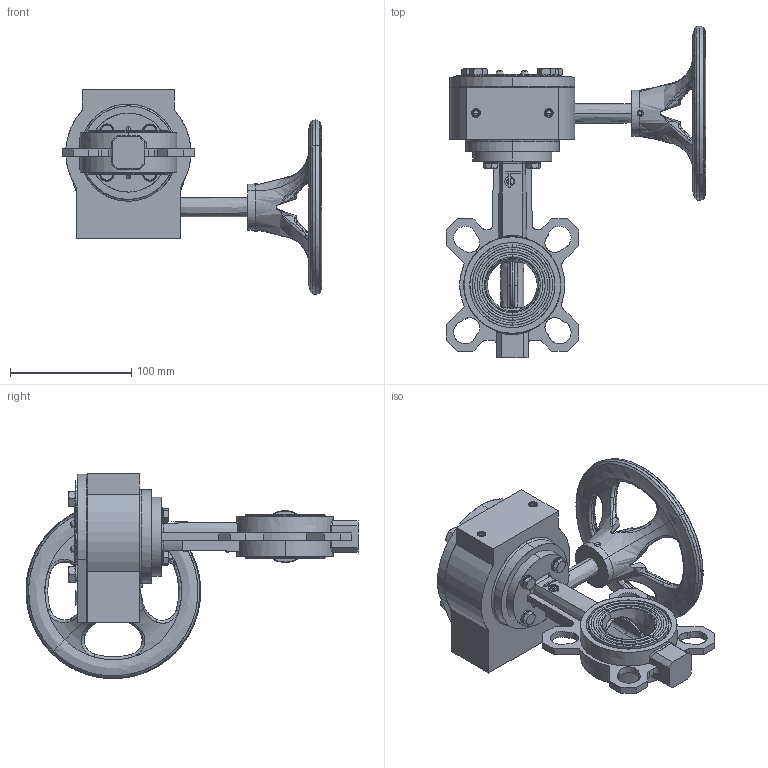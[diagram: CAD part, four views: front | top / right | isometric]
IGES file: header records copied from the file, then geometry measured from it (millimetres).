
Start section: SolidWorks IGES file using analytic representation for surfaces
Global section: file name: H:\BE FABRICATION\BE SERIE\VP\VP SERIE\F072 VPG\plan 3D\VPG-08\WAFER\DN40\VPG444X-08XX0040.igs; native system: SolidWorks 2020; preprocessor: SolidWorks 2020; author: k.gigout; date: 220630.102417; units: millimetre
Bounding box: 214.03 x 273.38 x 168.88 mm (x, y, z)
Surface area: 149810 mm2 (no closed solid volume)
Topology: 0 solids, 0 shells, 943 faces, 20733 edges, 20721 vertices
Faces by surface type: bspline 699, revolution 244
